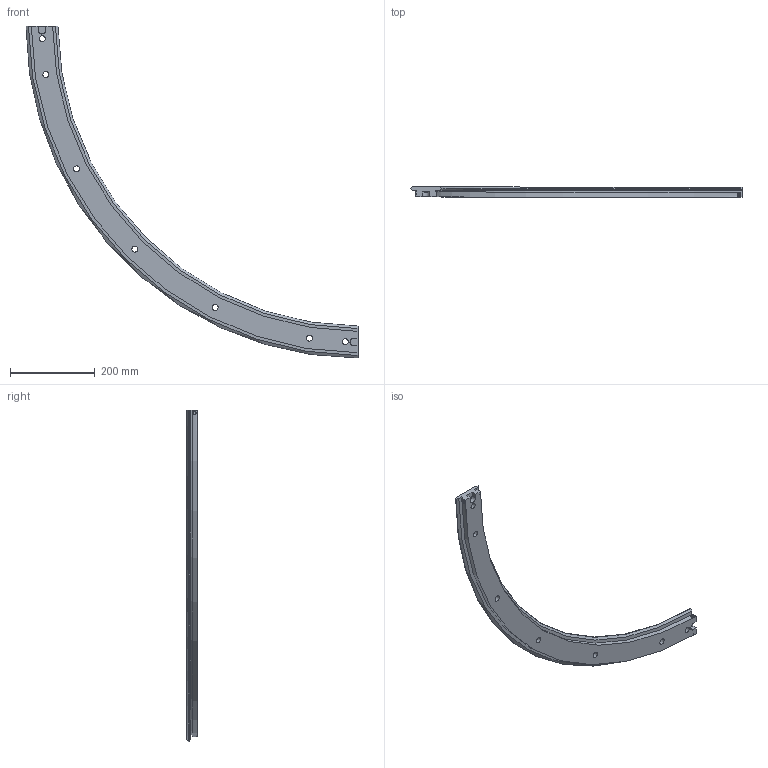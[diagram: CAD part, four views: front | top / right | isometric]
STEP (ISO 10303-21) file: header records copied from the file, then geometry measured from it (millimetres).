
FILE_DESCRIPTION( ( 'STEP AP203' ), '1' );
FILE_NAME( 'p:/temp/worker_25/temp/exporttempdir_4792_1028_yCBGu/format_0/TR76 1501 R90.stp', '2021-09-17T07:42:15', ( 'License CC BY-ND 4.0' ), ( 'CADENAS' ), ' ', 'PARTsolutions', ' ' );
FILE_SCHEMA( ( 'CONFIG_CONTROL_DESIGN' ) );
Length unit declared in the file: millimetre
Products named in the file (1): _TR76 1501 R90
Bounding box: 785.8 x 24 x 785.8 mm (x, y, z)
Volume: 1556736.8 mm3; surface area: 248856.7 mm2
Topology: 1 solids, 1 shells, 83 faces, 200 edges, 134 vertices
Faces by surface type: plane 53, cylinder 24, cone 4, torus 2
Full cylindrical faces by diameter (mm): 8 x4, 14 x7, 20 x7
Entity records: 2674 total; most frequent: CARTESIAN_POINT 716, DIRECTION 384, ORIENTED_EDGE 360, EDGE_CURVE 180, AXIS2_PLACEMENT_3D 136, VERTEX_POINT 132, EDGE_LOOP 130, LINE 112
